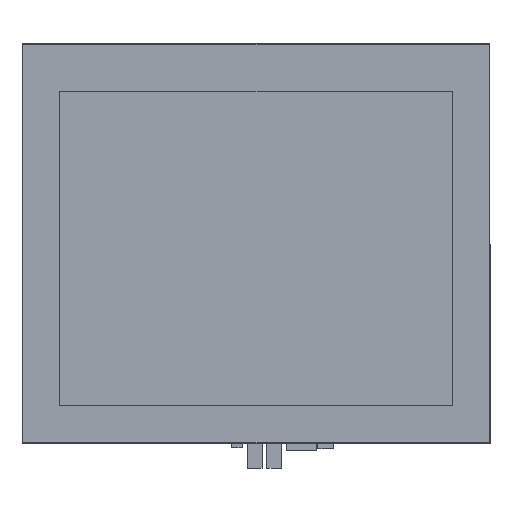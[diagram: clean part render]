
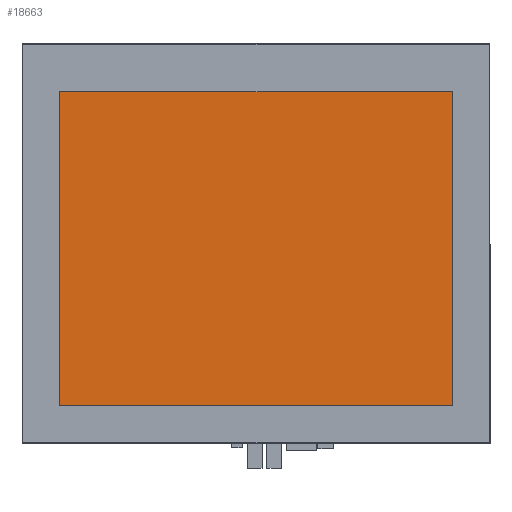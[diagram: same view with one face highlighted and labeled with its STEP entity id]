
A CAD part, top view. The second image highlights one B-rep face of the part: STEP entity #18663.
In plain terms, the highlighted planar face has unit normal (0, 0, 1).
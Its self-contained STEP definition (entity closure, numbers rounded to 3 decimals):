
#154 = FACE_OUTER_BOUND ( 'NONE', #289, .T. ) ;
#216 = EDGE_CURVE ( 'NONE', #11921, #25590, #45610, .T. ) ;
#289 = EDGE_LOOP ( 'NONE', ( #1667, #46576, #10381, #7813 ) ) ;
#1667 = ORIENTED_EDGE ( 'NONE', *, *, #22894, .T. ) ;
#1866 = LINE ( 'NONE', #45245, #19346 ) ;
#4560 = EDGE_CURVE ( 'NONE', #22201, #11921, #1866, .T. ) ;
#7813 = ORIENTED_EDGE ( 'NONE', *, *, #40714, .T. ) ;
#9529 = CARTESIAN_POINT ( 'NONE',  ( 412.32, 36., 3.8 ) ) ;
#10381 = ORIENTED_EDGE ( 'NONE', *, *, #216, .T. ) ;
#11255 = VECTOR ( 'NONE', #40523, 1000. ) ;
#11921 = VERTEX_POINT ( 'NONE', #43237 ) ;
#14894 = DIRECTION ( 'NONE',  ( 0., -1., 0. ) ) ;
#17481 = CARTESIAN_POINT ( 'NONE',  ( 36., 337.06, 3.8 ) ) ;
#18663 = ADVANCED_FACE ( 'NONE', ( #154 ), #48236, .T. ) ;
#19346 = VECTOR ( 'NONE', #22599, 1000. ) ;
#19735 = CARTESIAN_POINT ( 'NONE',  ( 412.32, 337.06, 3.8 ) ) ;
#22191 = DIRECTION ( 'NONE',  ( 0., 0., 1. ) ) ;
#22201 = VERTEX_POINT ( 'NONE', #19735 ) ;
#22599 = DIRECTION ( 'NONE',  ( -1., 0., 0. ) ) ;
#22894 = EDGE_CURVE ( 'NONE', #29632, #22201, #26241, .T. ) ;
#25062 = VECTOR ( 'NONE', #28377, 1000. ) ;
#25590 = VERTEX_POINT ( 'NONE', #32760 ) ;
#26241 = LINE ( 'NONE', #9529, #25062 ) ;
#28377 = DIRECTION ( 'NONE',  ( 0., 1., 0. ) ) ;
#29632 = VERTEX_POINT ( 'NONE', #47222 ) ;
#32760 = CARTESIAN_POINT ( 'NONE',  ( 36., 36., 3.8 ) ) ;
#35562 = VECTOR ( 'NONE', #14894, 1000. ) ;
#36709 = CARTESIAN_POINT ( 'NONE',  ( 36., 36., 3.8 ) ) ;
#39820 = AXIS2_PLACEMENT_3D ( 'NONE', #44787, #22191, #48562 ) ;
#40523 = DIRECTION ( 'NONE',  ( 1., 0., 0. ) ) ;
#40714 = EDGE_CURVE ( 'NONE', #25590, #29632, #41286, .T. ) ;
#41286 = LINE ( 'NONE', #36709, #11255 ) ;
#43237 = CARTESIAN_POINT ( 'NONE',  ( 36., 337.06, 3.8 ) ) ;
#44787 = CARTESIAN_POINT ( 'NONE',  ( 224.16, 186.53, 3.8 ) ) ;
#45245 = CARTESIAN_POINT ( 'NONE',  ( 412.32, 337.06, 3.8 ) ) ;
#45610 = LINE ( 'NONE', #17481, #35562 ) ;
#46576 = ORIENTED_EDGE ( 'NONE', *, *, #4560, .T. ) ;
#47222 = CARTESIAN_POINT ( 'NONE',  ( 412.32, 36., 3.8 ) ) ;
#48236 = PLANE ( 'NONE',  #39820 ) ;
#48562 = DIRECTION ( 'NONE',  ( 0., -1., 0. ) ) ;
